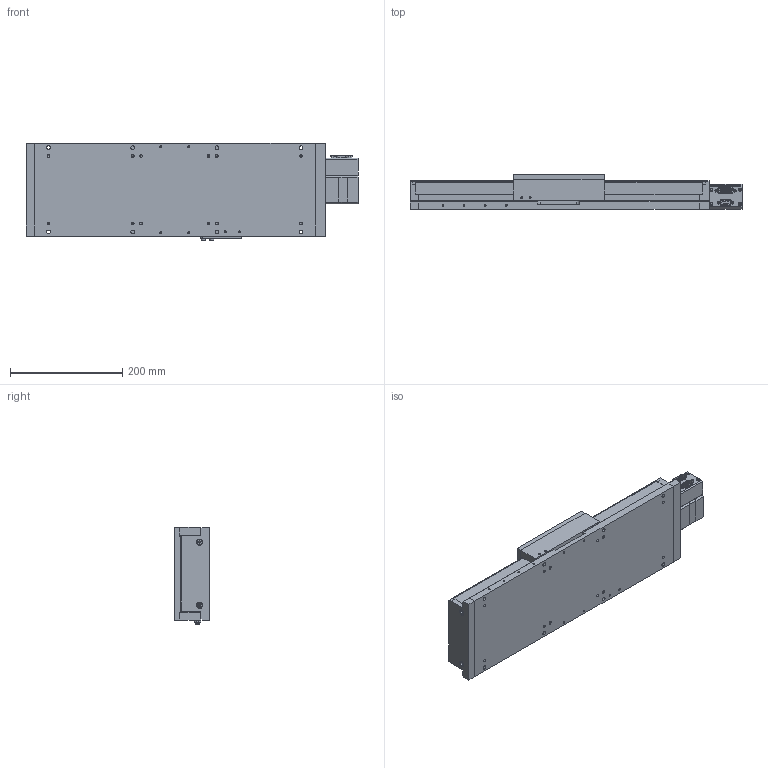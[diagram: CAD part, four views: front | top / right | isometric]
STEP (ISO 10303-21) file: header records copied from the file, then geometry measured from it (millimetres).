
FILE_DESCRIPTION (( 'STEP AP214' ), '1' );
FILE_NAME ('LM3-300-BS-A-H-S-EXPORT.STEP', '2024-05-07T14:53:10', ( 'lab' ), ( '' ), 'SwSTEP 2.0', 'SolidWorks 2018', '' );
FILE_SCHEMA (( 'AUTOMOTIVE_DESIGN' ));
Length unit declared in the file: millimetre
Products named in the file (16): 1000007; 1000014_91290A150; 1000006; 1000013; 1000001; 1000010; 1000012; LM3-300-BS-A-H-S-EXPORT; 1000011_300; 1000003_91290A148; 1000009; 1000005; 1000008; 1000004; 1000002; 1000019
Assembly tree (27 placements, depth 3):
  LM3-300-BS-A-H-S-EXPORT
    1000019
      1000001  x2
      1000002
      1000003_91290A148  x2
      1000004
      1000005
      1000006
      1000007
      1000008
      1000009
      1000010  x4
      1000011_300
      1000012
      1000013
      1000014_91290A150  x8
Bounding box: 591.4 x 62 x 173 mm (x, y, z)
Volume: 4470739.6 mm3; surface area: 434598.2 mm2
Topology: 78 solids, 78 shells, 1744 faces, 3990 edges, 2450 vertices
Faces by surface type: plane 893, cylinder 473, cone 208, bspline 170
Entity records: 53093 total; most frequent: CARTESIAN_POINT 13155, DIRECTION 6724, ORIENTED_EDGE 6552, EDGE_CURVE 3276, AXIS2_PLACEMENT_3D 2384, VERTEX_POINT 2087, VECTOR 1956, LINE 1956
